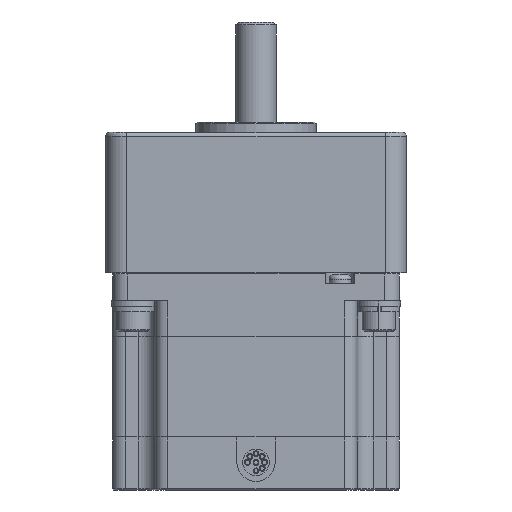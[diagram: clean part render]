
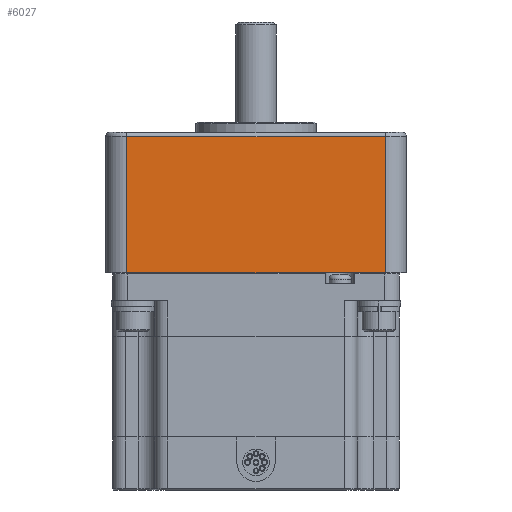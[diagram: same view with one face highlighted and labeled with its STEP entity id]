
A CAD part, front view. The second image highlights one B-rep face of the part: STEP entity #6027.
In plain terms, the highlighted planar face has unit normal (0, -1, 0).
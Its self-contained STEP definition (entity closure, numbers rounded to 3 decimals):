
#195 = CARTESIAN_POINT ( 'NONE',  ( -38.608, -44.958, 0. ) ) ;
#196 = LINE ( 'NONE', #195, #209 ) ;
#208 = DIRECTION ( 'NONE',  ( 1., 0., 0. ) ) ;
#209 = VECTOR ( 'NONE', #208, 1000. ) ;
#217 = PLANE ( 'NONE',  #267 ) ;
#220 = VECTOR ( 'NONE', #242, 1000. ) ;
#221 = CARTESIAN_POINT ( 'NONE',  ( 38.608, -44.958, 42.012 ) ) ;
#222 = LINE ( 'NONE', #221, #220 ) ;
#233 = DIRECTION ( 'NONE',  ( -1., 0., 0. ) ) ;
#234 = VECTOR ( 'NONE', #233, 1000. ) ;
#242 = DIRECTION ( 'NONE',  ( 0., 0., -1. ) ) ;
#252 = CARTESIAN_POINT ( 'NONE',  ( -38.608, -44.958, 40.742 ) ) ;
#253 = LINE ( 'NONE', #252, #234 ) ;
#267 = AXIS2_PLACEMENT_3D ( 'NONE', #299, #284, #283 ) ;
#283 = DIRECTION ( 'NONE',  ( 0., 0., 1. ) ) ;
#284 = DIRECTION ( 'NONE',  ( 0., 1., 0. ) ) ;
#299 = CARTESIAN_POINT ( 'NONE',  ( -38.608, -44.958, 42.012 ) ) ;
#300 = FACE_OUTER_BOUND ( 'NONE', #6211, .T. ) ;
#382 = CARTESIAN_POINT ( 'NONE',  ( 38.608, -44.958, 40.742 ) ) ;
#5049 = CARTESIAN_POINT ( 'NONE',  ( -38.608, -44.958, 0. ) ) ;
#5080 = CARTESIAN_POINT ( 'NONE',  ( -38.608, -44.958, 42.012 ) ) ;
#5087 = DIRECTION ( 'NONE',  ( 0., 0., -1. ) ) ;
#5088 = VECTOR ( 'NONE', #5087, 1000. ) ;
#5089 = LINE ( 'NONE', #5080, #5088 ) ;
#6012 = ORIENTED_EDGE ( 'NONE', *, *, #6277, .T. ) ;
#6014 = ORIENTED_EDGE ( 'NONE', *, *, #6017, .T. ) ;
#6017 = EDGE_CURVE ( 'NONE', #6275, #6243, #196, .T. ) ;
#6027 = ADVANCED_FACE ( 'NONE', ( #300 ), #217, .F. ) ;
#6028 = ORIENTED_EDGE ( 'NONE', *, *, #6031, .T. ) ;
#6029 = ORIENTED_EDGE ( 'NONE', *, *, #6032, .F. ) ;
#6031 = EDGE_CURVE ( 'NONE', #6033, #6233, #253, .T. ) ;
#6032 = EDGE_CURVE ( 'NONE', #6033, #6243, #222, .T. ) ;
#6033 = VERTEX_POINT ( 'NONE', #382 ) ;
#6211 = EDGE_LOOP ( 'NONE', ( #6029, #6028, #6012, #6014 ) ) ;
#6233 = VERTEX_POINT ( 'NONE', #6728 ) ;
#6243 = VERTEX_POINT ( 'NONE', #6709 ) ;
#6275 = VERTEX_POINT ( 'NONE', #5049 ) ;
#6277 = EDGE_CURVE ( 'NONE', #6233, #6275, #5089, .T. ) ;
#6709 = CARTESIAN_POINT ( 'NONE',  ( 38.608, -44.958, 0. ) ) ;
#6728 = CARTESIAN_POINT ( 'NONE',  ( -38.608, -44.958, 40.742 ) ) ;
